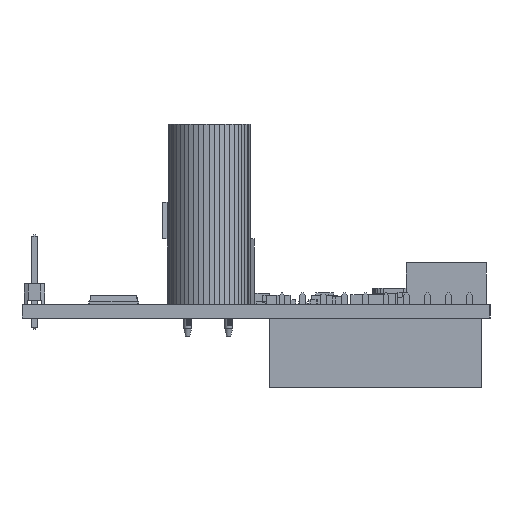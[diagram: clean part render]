
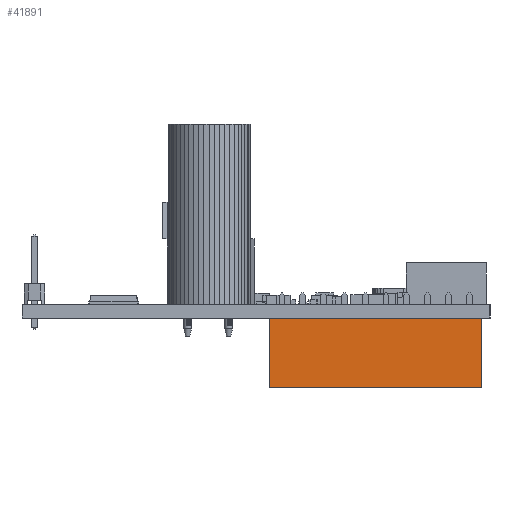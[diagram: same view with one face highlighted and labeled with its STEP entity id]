
A CAD part, left-side view. The second image highlights one B-rep face of the part: STEP entity #41891.
In plain terms, the highlighted planar face has unit normal (-1, 0, 0) as drawn and (0, 1, 0) by its records, which use the part's own axes.
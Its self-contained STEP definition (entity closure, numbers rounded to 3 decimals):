
#33282 = PLANE('',#33283);
#33283 = AXIS2_PLACEMENT_3D('',#33284,#33285,#33286);
#33284 = CARTESIAN_POINT('',(12.95,-1.25,4.25));
#33285 = DIRECTION('',(0.,0.,-1.));
#33286 = DIRECTION('',(-1.,0.,0.));
#34795 = EDGE_CURVE('',#34796,#34798,#34800,.T.);
#34796 = VERTEX_POINT('',#34797);
#34797 = CARTESIAN_POINT('',(12.95,1.25,4.25));
#34798 = VERTEX_POINT('',#34799);
#34799 = CARTESIAN_POINT('',(-12.95,1.25,4.25));
#34800 = SURFACE_CURVE('',#34801,(#34805,#34812),.PCURVE_S1.);
#34801 = LINE('',#34802,#34803);
#34802 = CARTESIAN_POINT('',(12.95,1.25,4.25));
#34803 = VECTOR('',#34804,1.);
#34804 = DIRECTION('',(-1.,0.,0.));
#34805 = PCURVE('',#33282,#34806);
#34806 = DEFINITIONAL_REPRESENTATION('',(#34807),#34811);
#34807 = LINE('',#34808,#34809);
#34808 = CARTESIAN_POINT('',(0.,2.5));
#34809 = VECTOR('',#34810,1.);
#34810 = DIRECTION('',(1.,0.));
#34811 = ( GEOMETRIC_REPRESENTATION_CONTEXT(2) 
PARAMETRIC_REPRESENTATION_CONTEXT() REPRESENTATION_CONTEXT('2D SPACE',''
  ) );
#34812 = PCURVE('',#34813,#34818);
#34813 = PLANE('',#34814);
#34814 = AXIS2_PLACEMENT_3D('',#34815,#34816,#34817);
#34815 = CARTESIAN_POINT('',(0.,1.25,0.));
#34816 = DIRECTION('',(0.,-1.,0.));
#34817 = DIRECTION('',(0.,0.,-1.));
#34818 = DEFINITIONAL_REPRESENTATION('',(#34819),#34823);
#34819 = LINE('',#34820,#34821);
#34820 = CARTESIAN_POINT('',(-4.25,12.95));
#34821 = VECTOR('',#34822,1.);
#34822 = DIRECTION('',(0.,-1.));
#34823 = ( GEOMETRIC_REPRESENTATION_CONTEXT(2) 
PARAMETRIC_REPRESENTATION_CONTEXT() REPRESENTATION_CONTEXT('2D SPACE',''
  ) );
#34841 = PLANE('',#34842);
#34842 = AXIS2_PLACEMENT_3D('',#34843,#34844,#34845);
#34843 = CARTESIAN_POINT('',(-12.95,-1.25,4.25));
#34844 = DIRECTION('',(1.,0.,0.));
#34845 = DIRECTION('',(0.,0.,1.));
#34895 = PLANE('',#34896);
#34896 = AXIS2_PLACEMENT_3D('',#34897,#34898,#34899);
#34897 = CARTESIAN_POINT('',(12.95,-1.25,-4.25));
#34898 = DIRECTION('',(-1.,0.,0.));
#34899 = DIRECTION('',(0.,0.,-1.));
#41441 = EDGE_CURVE('',#34798,#41442,#41444,.T.);
#41442 = VERTEX_POINT('',#41443);
#41443 = CARTESIAN_POINT('',(-12.95,1.25,-4.25));
#41444 = SURFACE_CURVE('',#41445,(#41449,#41456),.PCURVE_S1.);
#41445 = LINE('',#41446,#41447);
#41446 = CARTESIAN_POINT('',(-12.95,1.25,4.25));
#41447 = VECTOR('',#41448,1.);
#41448 = DIRECTION('',(0.,0.,-1.));
#41449 = PCURVE('',#34841,#41450);
#41450 = DEFINITIONAL_REPRESENTATION('',(#41451),#41455);
#41451 = LINE('',#41452,#41453);
#41452 = CARTESIAN_POINT('',(0.,-2.5));
#41453 = VECTOR('',#41454,1.);
#41454 = DIRECTION('',(-1.,0.));
#41455 = ( GEOMETRIC_REPRESENTATION_CONTEXT(2) 
PARAMETRIC_REPRESENTATION_CONTEXT() REPRESENTATION_CONTEXT('2D SPACE',''
  ) );
#41456 = PCURVE('',#34813,#41457);
#41457 = DEFINITIONAL_REPRESENTATION('',(#41458),#41462);
#41458 = LINE('',#41459,#41460);
#41459 = CARTESIAN_POINT('',(-4.25,-12.95));
#41460 = VECTOR('',#41461,1.);
#41461 = DIRECTION('',(1.,0.));
#41462 = ( GEOMETRIC_REPRESENTATION_CONTEXT(2) 
PARAMETRIC_REPRESENTATION_CONTEXT() REPRESENTATION_CONTEXT('2D SPACE',''
  ) );
#41480 = PLANE('',#41481);
#41481 = AXIS2_PLACEMENT_3D('',#41482,#41483,#41484);
#41482 = CARTESIAN_POINT('',(-12.95,-1.25,-4.25));
#41483 = DIRECTION('',(0.,0.,1.));
#41484 = DIRECTION('',(1.,0.,0.));
#41891 = ADVANCED_FACE('',(#41892),#34813,.F.);
#41892 = FACE_BOUND('',#41893,.T.);
#41893 = EDGE_LOOP('',(#41894,#41895,#41918,#41939));
#41894 = ORIENTED_EDGE('',*,*,#34795,.F.);
#41895 = ORIENTED_EDGE('',*,*,#41896,.F.);
#41896 = EDGE_CURVE('',#41897,#34796,#41899,.T.);
#41897 = VERTEX_POINT('',#41898);
#41898 = CARTESIAN_POINT('',(12.95,1.25,-4.25));
#41899 = SURFACE_CURVE('',#41900,(#41904,#41911),.PCURVE_S1.);
#41900 = LINE('',#41901,#41902);
#41901 = CARTESIAN_POINT('',(12.95,1.25,-4.25));
#41902 = VECTOR('',#41903,1.);
#41903 = DIRECTION('',(0.,0.,1.));
#41904 = PCURVE('',#34813,#41905);
#41905 = DEFINITIONAL_REPRESENTATION('',(#41906),#41910);
#41906 = LINE('',#41907,#41908);
#41907 = CARTESIAN_POINT('',(4.25,12.95));
#41908 = VECTOR('',#41909,1.);
#41909 = DIRECTION('',(-1.,0.));
#41910 = ( GEOMETRIC_REPRESENTATION_CONTEXT(2) 
PARAMETRIC_REPRESENTATION_CONTEXT() REPRESENTATION_CONTEXT('2D SPACE',''
  ) );
#41911 = PCURVE('',#34895,#41912);
#41912 = DEFINITIONAL_REPRESENTATION('',(#41913),#41917);
#41913 = LINE('',#41914,#41915);
#41914 = CARTESIAN_POINT('',(0.,-2.5));
#41915 = VECTOR('',#41916,1.);
#41916 = DIRECTION('',(-1.,0.));
#41917 = ( GEOMETRIC_REPRESENTATION_CONTEXT(2) 
PARAMETRIC_REPRESENTATION_CONTEXT() REPRESENTATION_CONTEXT('2D SPACE',''
  ) );
#41918 = ORIENTED_EDGE('',*,*,#41919,.F.);
#41919 = EDGE_CURVE('',#41442,#41897,#41920,.T.);
#41920 = SURFACE_CURVE('',#41921,(#41925,#41932),.PCURVE_S1.);
#41921 = LINE('',#41922,#41923);
#41922 = CARTESIAN_POINT('',(-12.95,1.25,-4.25));
#41923 = VECTOR('',#41924,1.);
#41924 = DIRECTION('',(1.,0.,0.));
#41925 = PCURVE('',#34813,#41926);
#41926 = DEFINITIONAL_REPRESENTATION('',(#41927),#41931);
#41927 = LINE('',#41928,#41929);
#41928 = CARTESIAN_POINT('',(4.25,-12.95));
#41929 = VECTOR('',#41930,1.);
#41930 = DIRECTION('',(0.,1.));
#41931 = ( GEOMETRIC_REPRESENTATION_CONTEXT(2) 
PARAMETRIC_REPRESENTATION_CONTEXT() REPRESENTATION_CONTEXT('2D SPACE',''
  ) );
#41932 = PCURVE('',#41480,#41933);
#41933 = DEFINITIONAL_REPRESENTATION('',(#41934),#41938);
#41934 = LINE('',#41935,#41936);
#41935 = CARTESIAN_POINT('',(0.,2.5));
#41936 = VECTOR('',#41937,1.);
#41937 = DIRECTION('',(1.,0.));
#41938 = ( GEOMETRIC_REPRESENTATION_CONTEXT(2) 
PARAMETRIC_REPRESENTATION_CONTEXT() REPRESENTATION_CONTEXT('2D SPACE',''
  ) );
#41939 = ORIENTED_EDGE('',*,*,#41441,.F.);
